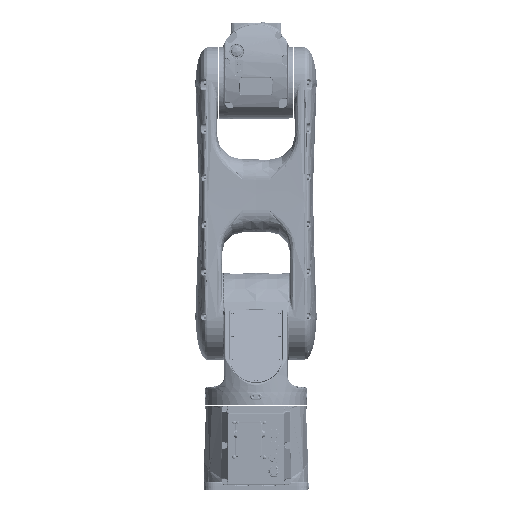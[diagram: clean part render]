
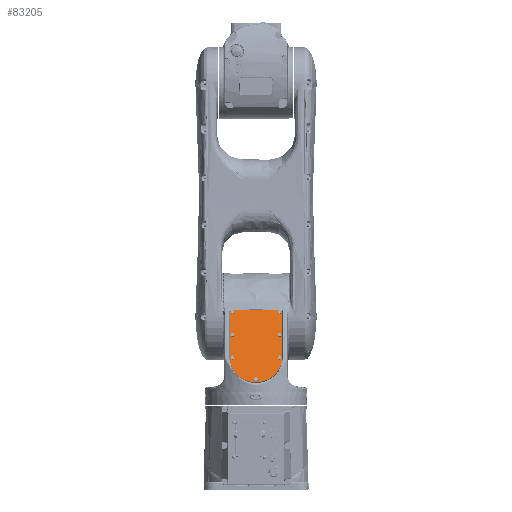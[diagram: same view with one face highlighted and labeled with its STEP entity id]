
A CAD part, left-side view. The second image highlights one B-rep face of the part: STEP entity #83205.
In plain terms, the highlighted planar face has unit normal (-0.934, 0, 0.358).
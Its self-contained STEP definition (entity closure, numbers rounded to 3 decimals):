
#70322=DIRECTION('',(-0.358,0.,
-0.934));
#70323=VECTOR('',#70322,94.5);
#70324=CARTESIAN_POINT('',(-45.192,49.5,339.673));
#70325=LINE('',#70324,#70323);
#70334=DIRECTION('',(0.,1.,0.));
#70335=VECTOR('',#70334,93.);
#70336=CARTESIAN_POINT('',(-44.117,-46.5,
342.473));
#70337=LINE('',#70336,#70335);
#70346=DIRECTION('',(0.358,0.,0.934));
#70347=VECTOR('',#70346,94.5);
#70348=CARTESIAN_POINT('',(-79.058,-49.5,251.449));
#70349=LINE('',#70348,#70347);
#70358=CARTESIAN_POINT('',(-45.192,-46.5,339.673));
#70359=DIRECTION('',(0.934,0.,-0.358));
#70360=DIRECTION('',(0.358,0.,0.934));
#70361=AXIS2_PLACEMENT_3D('',#70358,#70359,#70360);
#70363=CARTESIAN_POINT('',(-79.058,0.,
251.449));
#70364=DIRECTION('',(0.934,0.,-0.358));
#70365=DIRECTION('',(0.,-1.,0.));
#70366=AXIS2_PLACEMENT_3D('',#70363,#70364,#70365);
#70368=CARTESIAN_POINT('',(-45.192,46.5,339.673));
#70369=DIRECTION('',(0.934,0.,-0.358));
#70370=DIRECTION('',(0.,1.,0.));
#70371=AXIS2_PLACEMENT_3D('',#70368,#70369,#70370);
#70373=CARTESIAN_POINT('',(-45.909,44.5,337.805));
#70374=DIRECTION('',(-0.934,0.,0.358));
#70375=DIRECTION('',(0.,-1.,0.));
#70376=AXIS2_PLACEMENT_3D('',#70373,#70374,#70375);
#70378=CARTESIAN_POINT('',(-45.909,44.5,337.805));
#70379=DIRECTION('',(-0.934,0.,0.358));
#70380=DIRECTION('',(0.,1.,0.));
#70381=AXIS2_PLACEMENT_3D('',#70378,#70379,#70380);
#70383=CARTESIAN_POINT('',(-45.909,-44.5,337.805));
#70384=DIRECTION('',(-0.934,0.,0.358));
#70385=DIRECTION('',(0.,-1.,0.));
#70386=AXIS2_PLACEMENT_3D('',#70383,#70384,#70385);
#70388=CARTESIAN_POINT('',(-45.909,-44.5,337.805));
#70389=DIRECTION('',(-0.934,0.,0.358));
#70390=DIRECTION('',(0.,1.,0.));
#70391=AXIS2_PLACEMENT_3D('',#70388,#70389,#70390);
#70393=CARTESIAN_POINT('',(-79.058,-44.5,
251.449));
#70394=DIRECTION('',(-0.934,0.,0.358));
#70395=DIRECTION('',(0.,-1.,0.));
#70396=AXIS2_PLACEMENT_3D('',#70393,#70394,#70395);
#70398=CARTESIAN_POINT('',(-79.058,-44.5,
251.449));
#70399=DIRECTION('',(-0.934,0.,0.358));
#70400=DIRECTION('',(0.,1.,0.));
#70401=AXIS2_PLACEMENT_3D('',#70398,#70399,#70400);
#70403=CARTESIAN_POINT('',(-79.058,44.5,
251.449));
#70404=DIRECTION('',(-0.934,0.,0.358));
#70405=DIRECTION('',(0.,-1.,0.));
#70406=AXIS2_PLACEMENT_3D('',#70403,#70404,#70405);
#70408=CARTESIAN_POINT('',(-79.058,44.5,
251.449));
#70409=DIRECTION('',(-0.934,0.,0.358));
#70410=DIRECTION('',(0.,1.,0.));
#70411=AXIS2_PLACEMENT_3D('',#70408,#70409,#70410);
#70413=CARTESIAN_POINT('',(-95.005,0.,
209.905));
#70414=DIRECTION('',(-0.934,0.,0.358));
#70415=DIRECTION('',(0.,-1.,0.));
#70416=AXIS2_PLACEMENT_3D('',#70413,#70414,#70415);
#70418=CARTESIAN_POINT('',(-95.005,0.,
209.905));
#70419=DIRECTION('',(-0.934,0.,0.358));
#70420=DIRECTION('',(0.,1.,0.));
#70421=AXIS2_PLACEMENT_3D('',#70418,#70419,#70420);
#70423=CARTESIAN_POINT('',(-62.573,44.5,
294.394));
#70424=DIRECTION('',(-0.934,0.,0.358));
#70425=DIRECTION('',(0.,-1.,0.));
#70426=AXIS2_PLACEMENT_3D('',#70423,#70424,#70425);
#70428=CARTESIAN_POINT('',(-62.573,44.5,
294.394));
#70429=DIRECTION('',(-0.934,0.,0.358));
#70430=DIRECTION('',(0.,1.,0.));
#70431=AXIS2_PLACEMENT_3D('',#70428,#70429,#70430);
#70433=CARTESIAN_POINT('',(-62.573,-44.5,
294.394));
#70434=DIRECTION('',(-0.934,0.,0.358));
#70435=DIRECTION('',(0.,-1.,0.));
#70436=AXIS2_PLACEMENT_3D('',#70433,#70434,#70435);
#70438=CARTESIAN_POINT('',(-62.573,-44.5,
294.394));
#70439=DIRECTION('',(-0.934,0.,0.358));
#70440=DIRECTION('',(0.,1.,0.));
#70441=AXIS2_PLACEMENT_3D('',#70438,#70439,#70440);
#72900=CARTESIAN_POINT('',(-45.192,49.5,339.673));
#72901=VERTEX_POINT('',#72900);
#72902=CARTESIAN_POINT('',(-79.058,49.5,
251.449));
#72903=VERTEX_POINT('',#72902);
#72904=CARTESIAN_POINT('',(-44.117,46.5,
342.473));
#72905=VERTEX_POINT('',#72904);
#72906=CARTESIAN_POINT('',(-44.117,-46.5,
342.473));
#72907=VERTEX_POINT('',#72906);
#72908=CARTESIAN_POINT('',(-45.192,-49.5,339.673));
#72909=VERTEX_POINT('',#72908);
#72910=CARTESIAN_POINT('',(-79.058,-49.5,251.449));
#72911=VERTEX_POINT('',#72910);
#72912=CARTESIAN_POINT('',(-45.909,41.,337.805));
#72913=CARTESIAN_POINT('',(-45.909,48.,337.805));
#72914=VERTEX_POINT('',#72912);
#72915=VERTEX_POINT('',#72913);
#72916=CARTESIAN_POINT('',(-45.909,-48.,337.805));
#72917=CARTESIAN_POINT('',(-45.909,-41.,337.805));
#72918=VERTEX_POINT('',#72916);
#72919=VERTEX_POINT('',#72917);
#72920=CARTESIAN_POINT('',(-79.058,-48.,
251.449));
#72921=CARTESIAN_POINT('',(-79.058,-41.,
251.449));
#72922=VERTEX_POINT('',#72920);
#72923=VERTEX_POINT('',#72921);
#72924=CARTESIAN_POINT('',(-79.058,41.,
251.449));
#72925=CARTESIAN_POINT('',(-79.058,48.,
251.449));
#72926=VERTEX_POINT('',#72924);
#72927=VERTEX_POINT('',#72925);
#72928=CARTESIAN_POINT('',(-95.005,-3.5,
209.905));
#72929=CARTESIAN_POINT('',(-95.005,3.5,
209.905));
#72930=VERTEX_POINT('',#72928);
#72931=VERTEX_POINT('',#72929);
#72932=CARTESIAN_POINT('',(-62.573,41.,
294.394));
#72933=CARTESIAN_POINT('',(-62.573,48.,
294.394));
#72934=VERTEX_POINT('',#72932);
#72935=VERTEX_POINT('',#72933);
#72936=CARTESIAN_POINT('',(-62.573,-48.,
294.394));
#72937=CARTESIAN_POINT('',(-62.573,-41.,
294.394));
#72938=VERTEX_POINT('',#72936);
#72939=VERTEX_POINT('',#72937);
#83150=CARTESIAN_POINT('',(-79.058,0.,
251.449));
#83151=DIRECTION('',(0.934,0.,-0.358));
#83152=DIRECTION('',(0.,1.,0.));
#83153=AXIS2_PLACEMENT_3D('',#83150,#83151,#83152);
#83154=PLANE('',#83153);
#83155=ORIENTED_EDGE('',*,*,#83117,.T.);
#83156=ORIENTED_EDGE('',*,*,#83131,.F.);
#83157=ORIENTED_EDGE('',*,*,#83144,.T.);
#83158=ORIENTED_EDGE('',*,*,#83074,.F.);
#83159=ORIENTED_EDGE('',*,*,#83089,.T.);
#83160=ORIENTED_EDGE('',*,*,#83103,.F.);
#83161=EDGE_LOOP('',(#83155,#83156,#83157,#83158,#83159,#83160));
#83162=FACE_OUTER_BOUND('',#83161,.F.);
#83164=ORIENTED_EDGE('',*,*,#83163,.T.);
#83166=ORIENTED_EDGE('',*,*,#83165,.T.);
#83167=EDGE_LOOP('',(#83164,#83166));
#83168=FACE_BOUND('',#83167,.F.);
#83170=ORIENTED_EDGE('',*,*,#83169,.T.);
#83172=ORIENTED_EDGE('',*,*,#83171,.T.);
#83173=EDGE_LOOP('',(#83170,#83172));
#83174=FACE_BOUND('',#83173,.F.);
#83176=ORIENTED_EDGE('',*,*,#83175,.T.);
#83178=ORIENTED_EDGE('',*,*,#83177,.T.);
#83179=EDGE_LOOP('',(#83176,#83178));
#83180=FACE_BOUND('',#83179,.F.);
#83182=ORIENTED_EDGE('',*,*,#83181,.T.);
#83184=ORIENTED_EDGE('',*,*,#83183,.T.);
#83185=EDGE_LOOP('',(#83182,#83184));
#83186=FACE_BOUND('',#83185,.F.);
#83188=ORIENTED_EDGE('',*,*,#83187,.T.);
#83190=ORIENTED_EDGE('',*,*,#83189,.T.);
#83191=EDGE_LOOP('',(#83188,#83190));
#83192=FACE_BOUND('',#83191,.F.);
#83194=ORIENTED_EDGE('',*,*,#83193,.T.);
#83196=ORIENTED_EDGE('',*,*,#83195,.T.);
#83197=EDGE_LOOP('',(#83194,#83196));
#83198=FACE_BOUND('',#83197,.F.);
#83200=ORIENTED_EDGE('',*,*,#83199,.T.);
#83202=ORIENTED_EDGE('',*,*,#83201,.T.);
#83203=EDGE_LOOP('',(#83200,#83202));
#83204=FACE_BOUND('',#83203,.F.);
#83205=ADVANCED_FACE('',(#83162,#83168,#83174,#83180,#83186,#83192,#83198,
#83204),#83154,.F.);
#70362=CIRCLE('',#70361,3.);
#70367=CIRCLE('',#70366,49.5);
#70372=CIRCLE('',#70371,3.);
#70377=CIRCLE('',#70376,3.5);
#70382=CIRCLE('',#70381,3.5);
#70387=CIRCLE('',#70386,3.5);
#70392=CIRCLE('',#70391,3.5);
#70397=CIRCLE('',#70396,3.5);
#70402=CIRCLE('',#70401,3.5);
#70407=CIRCLE('',#70406,3.5);
#70412=CIRCLE('',#70411,3.5);
#70417=CIRCLE('',#70416,3.5);
#70422=CIRCLE('',#70421,3.5);
#70427=CIRCLE('',#70426,3.5);
#70432=CIRCLE('',#70431,3.5);
#70437=CIRCLE('',#70436,3.5);
#70442=CIRCLE('',#70441,3.5);
#83074=EDGE_CURVE('',#72901,#72903,#70325,.T.);
#83089=EDGE_CURVE('',#72901,#72905,#70372,.T.);
#83103=EDGE_CURVE('',#72907,#72905,#70337,.T.);
#83117=EDGE_CURVE('',#72907,#72909,#70362,.T.);
#83131=EDGE_CURVE('',#72911,#72909,#70349,.T.);
#83144=EDGE_CURVE('',#72911,#72903,#70367,.T.);
#83163=EDGE_CURVE('',#72914,#72915,#70377,.T.);
#83165=EDGE_CURVE('',#72915,#72914,#70382,.T.);
#83169=EDGE_CURVE('',#72918,#72919,#70387,.T.);
#83171=EDGE_CURVE('',#72919,#72918,#70392,.T.);
#83175=EDGE_CURVE('',#72922,#72923,#70397,.T.);
#83177=EDGE_CURVE('',#72923,#72922,#70402,.T.);
#83181=EDGE_CURVE('',#72926,#72927,#70407,.T.);
#83183=EDGE_CURVE('',#72927,#72926,#70412,.T.);
#83187=EDGE_CURVE('',#72930,#72931,#70417,.T.);
#83189=EDGE_CURVE('',#72931,#72930,#70422,.T.);
#83193=EDGE_CURVE('',#72934,#72935,#70427,.T.);
#83195=EDGE_CURVE('',#72935,#72934,#70432,.T.);
#83199=EDGE_CURVE('',#72938,#72939,#70437,.T.);
#83201=EDGE_CURVE('',#72939,#72938,#70442,.T.);
